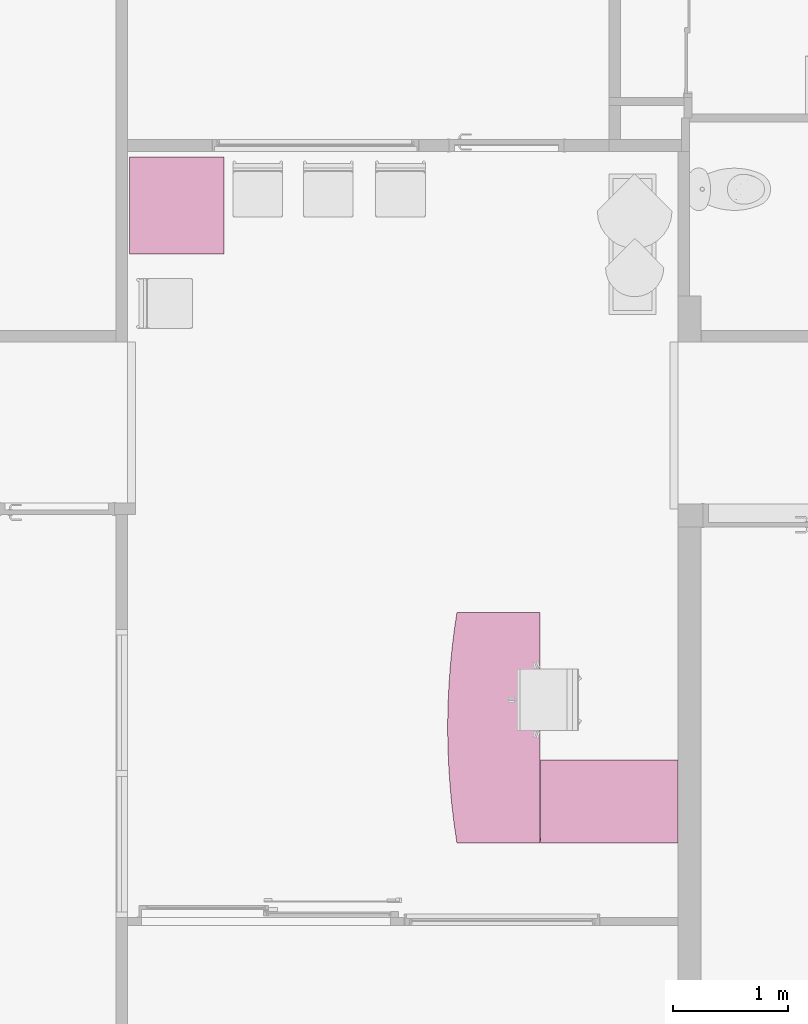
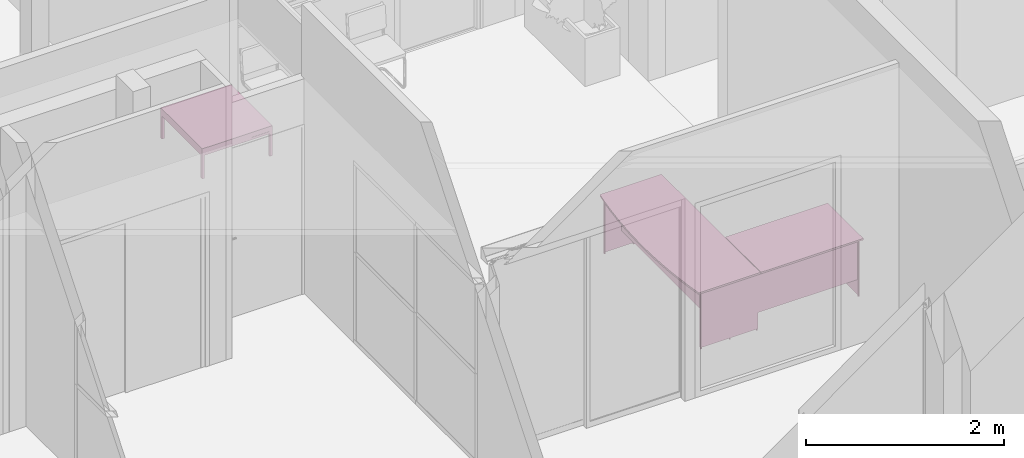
# One storey, part 29 of 32: 2 furnishings.
"""IFC2X3 building model written with IfcOpenShell, lengths in metres."""

from ifc_helpers import new_model, entity, si_unit, converted_unit, derived_unit, direction, frame, frame_2d, origin, origin_2d_with_axis, place, context, subcontext, project, spatial, polyline, circle_curve, parameter, trimmed, segment, composite_curve, rectangle, circle, outline, extrude, source, transform, mapped, material, material_list, type_object, type_shapes, element, save


model = new_model("IFC2X3")

# Units and contexts
model_context = context("Model", 3, precision=1e-05, world=origin(), true_north=direction((6.12303176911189e-17, 1.0)))
plan_context = context("Plan", 3, precision=1e-05, world=origin(), true_north=direction((6.12303176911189e-17, 1.0)))
body_context = subcontext(model_context, "Body", "Model", "MODEL_VIEW")
ifc_project = project(units=[si_unit("LENGTHUNIT", "METRE"), si_unit("AREAUNIT", "SQUARE_METRE"), si_unit("VOLUMEUNIT", "CUBIC_METRE"), converted_unit("PLANEANGLEUNIT", "DEGREE", entity("IfcRatioMeasure", 0.0174532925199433), si_unit("PLANEANGLEUNIT", "RADIAN"), dimensions=[0, 0, 0, 0, 0, 0, 0]), si_unit("MASSUNIT", "GRAM", prefix="KILO"), derived_unit("MASSDENSITYUNIT", [(si_unit("MASSUNIT", "GRAM", prefix="KILO"), 1), (si_unit("LENGTHUNIT", "METRE"), -3)]), derived_unit("MOMENTOFINERTIAUNIT", [(si_unit("LENGTHUNIT", "METRE"), 4)]), si_unit("TIMEUNIT", "SECOND"), si_unit("FREQUENCYUNIT", "HERTZ"), si_unit("THERMODYNAMICTEMPERATUREUNIT", "DEGREE_CELSIUS"), derived_unit("THERMALTRANSMITTANCEUNIT", [(si_unit("MASSUNIT", "GRAM", prefix="KILO"), 1), (si_unit("THERMODYNAMICTEMPERATUREUNIT", "KELVIN"), -1), (si_unit("TIMEUNIT", "SECOND"), -3)]), derived_unit("VOLUMETRICFLOWRATEUNIT", [(si_unit("LENGTHUNIT", "METRE"), 3), (si_unit("TIMEUNIT", "SECOND"), -1)]), si_unit("ELECTRICCURRENTUNIT", "AMPERE"), si_unit("ELECTRICVOLTAGEUNIT", "VOLT"), si_unit("POWERUNIT", "WATT"), si_unit("FORCEUNIT", "NEWTON", prefix="KILO"), si_unit("ILLUMINANCEUNIT", "LUX"), si_unit("LUMINOUSFLUXUNIT", "LUMEN"), si_unit("LUMINOUSINTENSITYUNIT", "CANDELA"), derived_unit("USERDEFINED", [(si_unit("MASSUNIT", "GRAM", prefix="KILO"), -1), (si_unit("LENGTHUNIT", "METRE"), -2), (si_unit("TIMEUNIT", "SECOND"), 3), (si_unit("LUMINOUSFLUXUNIT", "LUMEN"), 1)]), derived_unit("LINEARVELOCITYUNIT", [(si_unit("LENGTHUNIT", "METRE"), 1), (si_unit("TIMEUNIT", "SECOND"), -1)]), si_unit("PRESSUREUNIT", "PASCAL"), derived_unit("USERDEFINED", [(si_unit("LENGTHUNIT", "METRE"), -2), (si_unit("MASSUNIT", "GRAM", prefix="KILO"), 1), (si_unit("TIMEUNIT", "SECOND"), -2)]), derived_unit("LINEARFORCEUNIT", [(si_unit("MASSUNIT", "GRAM", prefix="KILO"), 1), (si_unit("LENGTHUNIT", "METRE"), 1), (si_unit("TIMEUNIT", "SECOND"), -2), (si_unit("LENGTHUNIT", "METRE"), -1)]), derived_unit("PLANARFORCEUNIT", [(si_unit("MASSUNIT", "GRAM", prefix="KILO"), 1), (si_unit("LENGTHUNIT", "METRE"), 1), (si_unit("TIMEUNIT", "SECOND"), -2), (si_unit("LENGTHUNIT", "METRE"), -2)])], contexts=[model_context, plan_context])

# Site, building, storey, space
site_placement = place(None, origin())
site = spatial("IfcSite", under=ifc_project, at=site_placement, Name="Default", CompositionType="ELEMENT")
building_placement = place(site_placement, origin())
building = spatial("IfcBuilding", under=site, at=building_placement, CompositionType="ELEMENT")
storey_placement = place(building_placement, origin())
storey = spatial("IfcBuildingStorey", under=building, at=storey_placement, Name="0 Mairie RDC 0.00", CompositionType="ELEMENT", Elevation=-1.94916083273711e-14)
space_placement = place(storey_placement, origin())
space = spatial("IfcSpace", under=storey, at=space_placement, Name="16", CompositionType="ELEMENT", InteriorOrExteriorSpace="INTERNAL")

# Furnishings
ifc_material_1 = material(Name="Métal - Chrome")
ifc_material_2 = material(Name="Plastique - Noir")
ifc_material_3 = material(Name="Aggloméré - Blanc brillant")
ifc_material_list_1 = material_list([ifc_material_1, ifc_material_1, ifc_material_1, ifc_material_1, ifc_material_1, ifc_material_1, ifc_material_1, ifc_material_1, ifc_material_2, ifc_material_2, ifc_material_2, ifc_material_2, ifc_material_3])
ifc_material_list_2 = material_list([ifc_material_1, ifc_material_1, ifc_material_1, ifc_material_1, ifc_material_1, ifc_material_1, ifc_material_1, ifc_material_1, ifc_material_2, ifc_material_2, ifc_material_2, ifc_material_2, ifc_material_3])
furniture_type_1 = type_object("IfcFurnitureType", Name="Mobilier : Table basse - 01 : 82 x 84 x 37 cm - Blanc brillant", material=ifc_material_list_2)
shared_shape_1 = source(origin(), body_context, "Body", "SweptSolid", [
    extrude(outline(composite_curve([segment(polyline([(-0.0140000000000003, -0.015000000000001), (0.0140000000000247, -0.0150000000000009)]), True, "CONTINUOUS"), segment(trimmed(circle_curve(frame_2d((0.0140000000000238, -0.014000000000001), x_axis=(-1.0, 0.0)), 0.001), [parameter(89.9999999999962)], [parameter(180.0)], True, "PARAMETER"), True, "CONTINUOUS"), segment(polyline([(0.0149999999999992, -0.0140000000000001), (0.0149999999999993, 0.014000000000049)]), True, "CONTINUOUS"), segment(trimmed(circle_curve(frame_2d((0.0139999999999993, 0.0140000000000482), x_axis=(-1.0, 0.0)), 0.001), [parameter(180.0)], [parameter(270.000000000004)], True, "PARAMETER"), True, "CONTINUOUS"), segment(polyline([(0.0139999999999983, 0.0150000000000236), (-0.0139999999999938, 0.0149999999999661)]), True, "CONTINUOUS"), segment(trimmed(circle_curve(frame_2d((-0.0139999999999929, 0.0139999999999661), x_axis=(-1.0, 0.0)), 0.001), [parameter(270.0)], [parameter(0.0)], True, "PARAMETER"), True, "CONTINUOUS"), segment(polyline([(-0.0150000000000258, 0.0139999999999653), (-0.0150000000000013, -0.0140000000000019)]), True, "CONTINUOUS"), segment(trimmed(circle_curve(frame_2d((-0.0140000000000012, -0.014000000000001), x_axis=(-1.0, 0.0)), 0.001), [parameter(0.0)], [parameter(90.0000000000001)], True, "PARAMETER"), True, "CONTINUOUS")], self_intersect=False)), frame((-0.379999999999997, 0.404999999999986, 0.295000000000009), z_axis=(1.0, 0.0, 0.0), x_axis=(0.0, -1.0, 0.0)), (0.0, 0.0, 1.0), 0.76),
    extrude(outline(composite_curve([segment(polyline([(-0.0139999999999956, -0.0150000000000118), (0.0140000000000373, -0.0150000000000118)]), True, "CONTINUOUS"), segment(trimmed(circle_curve(frame_2d((0.0140000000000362, -0.0140000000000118), x_axis=(-1.0, 0.0)), 0.001), [parameter(90.0000000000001)], [parameter(180.0)], True, "PARAMETER"), True, "CONTINUOUS"), segment(polyline([(0.0150000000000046, -0.0140000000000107), (0.0150000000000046, 0.0140000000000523)]), True, "CONTINUOUS"), segment(trimmed(circle_curve(frame_2d((0.0140000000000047, 0.0140000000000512), x_axis=(-1.0, 0.0)), 0.001), [parameter(180.0)], [parameter(270.0)], True, "PARAMETER"), True, "CONTINUOUS"), segment(polyline([(0.0140000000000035, 0.0150000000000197), (-0.0140000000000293, 0.0149999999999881)]), True, "CONTINUOUS"), segment(trimmed(circle_curve(frame_2d((-0.0140000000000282, 0.0139999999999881), x_axis=(-1.0, 0.0)), 0.001), [parameter(270.0)], [parameter(0.0)], True, "PARAMETER"), True, "CONTINUOUS"), segment(polyline([(-0.0150000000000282, 0.013999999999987), (-0.0149999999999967, -0.014000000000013)]), True, "CONTINUOUS"), segment(trimmed(circle_curve(frame_2d((-0.0139999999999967, -0.0140000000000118), x_axis=(-1.0, 0.0)), 0.001), [parameter(0.0)], [parameter(90.0000000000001)], True, "PARAMETER"), True, "CONTINUOUS")], self_intersect=False)), frame((-0.379999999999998, -0.405000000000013, 0.295000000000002), z_axis=(1.0, 0.0, 0.0), x_axis=(0.0, -1.0, 0.0)), (0.0, 0.0, 1.0), 0.76),
    extrude(outline(composite_curve([segment(polyline([(-0.0139999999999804, -0.0150000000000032), (0.0140000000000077, -0.0150000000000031)]), True, "CONTINUOUS"), segment(trimmed(circle_curve(frame_2d((0.0140000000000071, -0.0140000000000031), x_axis=(-1.0, 0.0)), 0.001), [parameter(90.0000000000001)], [parameter(180.0)], True, "PARAMETER"), True, "CONTINUOUS"), segment(polyline([(0.0149999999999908, -0.0140000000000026), (0.0149999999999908, 0.0140000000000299)]), True, "CONTINUOUS"), segment(trimmed(circle_curve(frame_2d((0.0139999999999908, 0.0140000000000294), x_axis=(-1.0, 0.0)), 0.001), [parameter(180.0)], [parameter(270.0)], True, "PARAMETER"), True, "CONTINUOUS"), segment(polyline([(0.0139999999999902, 0.0150000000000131), (-0.0139999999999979, 0.0149999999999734)]), True, "CONTINUOUS"), segment(trimmed(circle_curve(frame_2d((-0.0139999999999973, 0.0139999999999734), x_axis=(-1.0, 0.0)), 0.001), [parameter(270.0)], [parameter(0.0)], True, "PARAMETER"), True, "CONTINUOUS"), segment(polyline([(-0.0150000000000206, 0.0139999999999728), (-0.014999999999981, -0.0139999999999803)]), True, "CONTINUOUS"), segment(trimmed(circle_curve(frame_2d((-0.013999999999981, -0.0139999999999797), x_axis=(-1.0, 0.0)), 0.001), [parameter(0.0)], [parameter(90.0000000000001)], True, "PARAMETER"), True, "CONTINUOUS")], self_intersect=False)), frame((0.394999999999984, -0.390000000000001, 0.294999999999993), z_axis=(0.0, 1.0, 0.0), x_axis=(-1.0, 0.0, 0.0)), (0.0, 0.0, 1.0), 0.779999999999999),
    extrude(outline(composite_curve([segment(polyline([(-0.0139999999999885, -0.0150000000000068), (0.0140000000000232, -0.0150000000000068)]), True, "CONTINUOUS"), segment(trimmed(circle_curve(frame_2d((0.0140000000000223, -0.0140000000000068), x_axis=(-1.0, 0.0)), 0.001), [parameter(90.0000000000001)], [parameter(180.0)], True, "PARAMETER"), True, "CONTINUOUS"), segment(polyline([(0.014999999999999, -0.014000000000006), (0.0149999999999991, 0.0140000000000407)]), True, "CONTINUOUS"), segment(trimmed(circle_curve(frame_2d((0.0139999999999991, 0.0140000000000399), x_axis=(-1.0, 0.0)), 0.001), [parameter(180.0)], [parameter(270.0)], True, "PARAMETER"), True, "CONTINUOUS"), segment(polyline([(0.0139999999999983, 0.0150000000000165), (-0.0140000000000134, 0.0149999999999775)]), True, "CONTINUOUS"), segment(trimmed(circle_curve(frame_2d((-0.0140000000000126, 0.0139999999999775), x_axis=(-1.0, 0.0)), 0.001), [parameter(270.0)], [parameter(0.0)], True, "PARAMETER"), True, "CONTINUOUS"), segment(polyline([(-0.0150000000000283, 0.0139999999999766), (-0.0149999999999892, -0.0139999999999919)]), True, "CONTINUOUS"), segment(trimmed(circle_curve(frame_2d((-0.0139999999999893, -0.0139999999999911), x_axis=(-1.0, 0.0)), 0.001), [parameter(0.0)], [parameter(90.0000000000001)], True, "PARAMETER"), True, "CONTINUOUS")], self_intersect=False)), frame((-0.395000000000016, -0.389999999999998, 0.294999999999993), z_axis=(0.0, 1.0, 0.0), x_axis=(-1.0, 0.0, 0.0)), (0.0, 0.0, 1.0), 0.779999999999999),
    extrude(outline(composite_curve([segment(polyline([(-0.0139999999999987, -0.0150000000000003), (0.0140000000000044, -0.0150000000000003)]), True, "CONTINUOUS"), segment(trimmed(circle_curve(frame_2d((0.0140000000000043, -0.0140000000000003), x_axis=(-1.0, 0.0)), 0.001), [parameter(90.0000000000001)], [parameter(180.0)], True, "PARAMETER"), True, "CONTINUOUS"), segment(polyline([(0.0150000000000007, -0.0140000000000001), (0.0149999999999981, 0.0140000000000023)]), True, "CONTINUOUS"), segment(trimmed(circle_curve(frame_2d((0.013999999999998, 0.0140000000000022), x_axis=(-1.0, 0.0)), 0.001), [parameter(180.0)], [parameter(270.0)], True, "PARAMETER"), True, "CONTINUOUS"), segment(polyline([(0.0139999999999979, 0.0150000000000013), (-0.0140000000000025, 0.0149999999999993)]), True, "CONTINUOUS"), segment(trimmed(circle_curve(frame_2d((-0.0140000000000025, 0.0139999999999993), x_axis=(-1.0, 0.0)), 0.001), [parameter(269.999999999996)], [parameter(0.0)], True, "PARAMETER"), True, "CONTINUOUS"), segment(polyline([(-0.0150000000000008, 0.0139999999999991), (-0.0149999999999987, -0.0140000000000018)]), True, "CONTINUOUS"), segment(trimmed(circle_curve(frame_2d((-0.0139999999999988, -0.0140000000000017), x_axis=(-1.0, 0.0)), 0.001), [parameter(0.0)], [parameter(89.9999999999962)], True, "PARAMETER"), True, "CONTINUOUS")], self_intersect=False)), frame((0.395000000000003, 0.404999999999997, 0.01), z_axis=(0.0, 0.0, 1.0), x_axis=(-1.0, 0.0, 0.0)), (0.0, 0.0, 1.0), 0.3),
    extrude(outline(composite_curve([segment(polyline([(-0.013999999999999, -0.0149999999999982), (0.0139999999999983, -0.0149999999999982)]), True, "CONTINUOUS"), segment(trimmed(circle_curve(frame_2d((0.0139999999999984, -0.0139999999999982), x_axis=(-1.0, 0.0)), 0.001), [parameter(90.0000000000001)], [parameter(180.0)], True, "PARAMETER"), True, "CONTINUOUS"), segment(polyline([(0.0149999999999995, -0.0139999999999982), (0.0149999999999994, 0.0139999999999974)]), True, "CONTINUOUS"), segment(trimmed(circle_curve(frame_2d((0.0139999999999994, 0.0139999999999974), x_axis=(-1.0, 0.0)), 0.001), [parameter(180.0)], [parameter(270.0)], True, "PARAMETER"), True, "CONTINUOUS"), segment(polyline([(0.0139999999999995, 0.0149999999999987), (-0.0139999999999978, 0.0149999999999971)]), True, "CONTINUOUS"), segment(trimmed(circle_curve(frame_2d((-0.0139999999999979, 0.0139999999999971), x_axis=(-1.0, 0.0)), 0.001), [parameter(270.0)], [parameter(0.0)], True, "PARAMETER"), True, "CONTINUOUS"), segment(polyline([(-0.0150000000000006, 0.0139999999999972), (-0.0149999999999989, -0.0139999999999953)]), True, "CONTINUOUS"), segment(trimmed(circle_curve(frame_2d((-0.0139999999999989, -0.0139999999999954), x_axis=(-1.0, 0.0)), 0.001), [parameter(0.0)], [parameter(90.0000000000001)], True, "PARAMETER"), True, "CONTINUOUS")], self_intersect=False)), frame((-0.394999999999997, 0.404999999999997, 0.01), z_axis=(0.0, 0.0, 1.0), x_axis=(-1.0, 0.0, 0.0)), (0.0, 0.0, 1.0), 0.3),
    extrude(outline(composite_curve([segment(polyline([(-0.0140000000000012, -0.0150000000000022), (0.0140000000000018, -0.0150000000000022)]), True, "CONTINUOUS"), segment(trimmed(circle_curve(frame_2d((0.0140000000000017, -0.0140000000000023), x_axis=(-1.0, 0.0)), 0.001), [parameter(90.0000000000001)], [parameter(180.0)], True, "PARAMETER"), True, "CONTINUOUS"), segment(polyline([(0.0150000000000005, -0.0140000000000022), (0.0150000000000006, 0.0140000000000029)]), True, "CONTINUOUS"), segment(trimmed(circle_curve(frame_2d((0.0140000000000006, 0.0140000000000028), x_axis=(-1.0, 0.0)), 0.001), [parameter(180.0)], [parameter(269.999999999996)], True, "PARAMETER"), True, "CONTINUOUS"), segment(polyline([(0.0140000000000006, 0.0150000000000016), (-0.0140000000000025, 0.015000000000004)]), True, "CONTINUOUS"), segment(trimmed(circle_curve(frame_2d((-0.0140000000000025, 0.014000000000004), x_axis=(-1.0, 0.0)), 0.001), [parameter(269.999999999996)], [parameter(359.999999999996)], True, "PARAMETER"), True, "CONTINUOUS"), segment(polyline([(-0.0149999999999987, 0.014000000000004), (-0.0150000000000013, -0.014000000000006)]), True, "CONTINUOUS"), segment(trimmed(circle_curve(frame_2d((-0.0140000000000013, -0.014000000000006), x_axis=(-1.0, 0.0)), 0.001), [parameter(0.0)], [parameter(90.000000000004)], True, "PARAMETER"), True, "CONTINUOUS")], self_intersect=False)), frame((0.395000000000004, -0.405000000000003, 0.01), z_axis=(0.0, 0.0, 1.0), x_axis=(-1.0, 0.0, 0.0)), (0.0, 0.0, 1.0), 0.3),
    extrude(outline(composite_curve([segment(polyline([(-0.0139999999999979, -0.0150000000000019), (0.0139999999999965, -0.0150000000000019)]), True, "CONTINUOUS"), segment(trimmed(circle_curve(frame_2d((0.0139999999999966, -0.0140000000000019), x_axis=(-1.0, 0.0)), 0.001), [parameter(90.0000000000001)], [parameter(180.0)], True, "PARAMETER"), True, "CONTINUOUS"), segment(polyline([(0.015, -0.014000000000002), (0.015, 0.0139999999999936)]), True, "CONTINUOUS"), segment(trimmed(circle_curve(frame_2d((0.014, 0.0139999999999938), x_axis=(-1.0, 0.0)), 0.001), [parameter(180.0)], [parameter(270.0)], True, "PARAMETER"), True, "CONTINUOUS"), segment(polyline([(0.0140000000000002, 0.0149999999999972), (-0.0140000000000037, 0.0150000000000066)]), True, "CONTINUOUS"), segment(trimmed(circle_curve(frame_2d((-0.0140000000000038, 0.0140000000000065), x_axis=(-1.0, 0.0)), 0.001), [parameter(270.0)], [parameter(0.0)], True, "PARAMETER"), True, "CONTINUOUS"), segment(polyline([(-0.0149999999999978, 0.0140000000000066), (-0.0149999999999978, -0.0139999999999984)]), True, "CONTINUOUS"), segment(trimmed(circle_curve(frame_2d((-0.0139999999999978, -0.0139999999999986), x_axis=(-1.0, 0.0)), 0.001), [parameter(359.999999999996)], [parameter(90.0000000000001)], True, "PARAMETER"), True, "CONTINUOUS")], self_intersect=False)), frame((-0.394999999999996, -0.405000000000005, 0.01), z_axis=(0.0, 0.0, 1.0), x_axis=(-1.0, 0.0, 0.0)), (0.0, 0.0, 1.0), 0.3),
    extrude(outline(composite_curve([segment(trimmed(circle_curve(frame_2d((0.0139999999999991, -0.0140000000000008), x_axis=(1.0, 0.0)), 0.001), [parameter(270.0)], [parameter(0.0)], True, "PARAMETER"), True, "CONTINUOUS"), segment(polyline([(0.0149999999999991, -0.0140000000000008), (0.0149999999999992, 0.0140000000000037)]), True, "CONTINUOUS"), segment(trimmed(circle_curve(frame_2d((0.0140000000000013, 0.0140000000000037), x_axis=(1.0, 0.0)), 0.001), [parameter(0.0)], [parameter(90.0000000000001)], True, "PARAMETER"), True, "CONTINUOUS"), segment(polyline([(0.0140000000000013, 0.0150000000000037), (-0.0139999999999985, 0.0150000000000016)]), True, "CONTINUOUS"), segment(trimmed(circle_curve(frame_2d((-0.0139999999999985, 0.013999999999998), x_axis=(1.0, 0.0)), 0.001), [parameter(90.0000000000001)], [parameter(180.0)], True, "PARAMETER"), True, "CONTINUOUS"), segment(polyline([(-0.0149999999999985, 0.013999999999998), (-0.0150000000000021, -0.0140000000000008)]), True, "CONTINUOUS"), segment(trimmed(circle_curve(frame_2d((-0.014000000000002, -0.0140000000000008), x_axis=(1.0, 0.0)), 0.001), [parameter(180.0)], [parameter(270.0)], True, "PARAMETER"), True, "CONTINUOUS"), segment(polyline([(-0.014000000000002, -0.0150000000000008), (0.0139999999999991, -0.0150000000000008)]), True, "CONTINUOUS")], self_intersect=False)), frame((-0.394999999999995, -0.405000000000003, 0.0)), (0.0, 0.0, 1.0), 0.01),
    extrude(outline(composite_curve([segment(trimmed(circle_curve(frame_2d((0.0139999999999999, -0.014), x_axis=(1.0, 0.0)), 0.001), [parameter(270.000000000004)], [parameter(359.999999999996)], True, "PARAMETER"), True, "CONTINUOUS"), segment(polyline([(0.0149999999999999, -0.0140000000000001), (0.0149999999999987, 0.0139999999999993)]), True, "CONTINUOUS"), segment(trimmed(circle_curve(frame_2d((0.0139999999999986, 0.0139999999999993), x_axis=(1.0, 0.0)), 0.001), [parameter(0.0)], [parameter(89.9999999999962)], True, "PARAMETER"), True, "CONTINUOUS"), segment(polyline([(0.0139999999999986, 0.0149999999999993), (-0.0139999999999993, 0.0149999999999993)]), True, "CONTINUOUS"), segment(trimmed(circle_curve(frame_2d((-0.0139999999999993, 0.0139999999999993), x_axis=(1.0, 0.0)), 0.001), [parameter(90.0000000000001)], [parameter(180.0)], True, "PARAMETER"), True, "CONTINUOUS"), segment(polyline([(-0.0149999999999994, 0.0139999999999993), (-0.0149999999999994, -0.0139999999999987)]), True, "CONTINUOUS"), segment(trimmed(circle_curve(frame_2d((-0.0139999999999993, -0.0139999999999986), x_axis=(1.0, 0.0)), 0.001), [parameter(180.000000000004)], [parameter(270.0)], True, "PARAMETER"), True, "CONTINUOUS"), segment(polyline([(-0.0139999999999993, -0.0149999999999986), (0.014, -0.0149999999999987)]), True, "CONTINUOUS")], self_intersect=False)), frame((0.395000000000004, 0.404999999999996, 0.0)), (0.0, 0.0, 1.0), 0.01),
    extrude(outline(composite_curve([segment(trimmed(circle_curve(frame_2d((0.014, -0.013999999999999), x_axis=(1.0, 0.0)), 0.001), [parameter(270.0)], [parameter(0.0)], True, "PARAMETER"), True, "CONTINUOUS"), segment(polyline([(0.015, -0.013999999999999), (0.015, 0.013999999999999)]), True, "CONTINUOUS"), segment(trimmed(circle_curve(frame_2d((0.0139999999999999, 0.0139999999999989), x_axis=(1.0, 0.0)), 0.001), [parameter(3.86755449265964e-12)], [parameter(90.0000000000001)], True, "PARAMETER"), True, "CONTINUOUS"), segment(polyline([(0.0139999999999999, 0.0149999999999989), (-0.0139999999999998, 0.014999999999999)]), True, "CONTINUOUS"), segment(trimmed(circle_curve(frame_2d((-0.0139999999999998, 0.0139999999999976), x_axis=(1.0, 0.0)), 0.001), [parameter(90.0000000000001)], [parameter(180.0)], True, "PARAMETER"), True, "CONTINUOUS"), segment(polyline([(-0.0149999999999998, 0.0139999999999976), (-0.0150000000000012, -0.0139999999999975)]), True, "CONTINUOUS"), segment(trimmed(circle_curve(frame_2d((-0.0139999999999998, -0.0139999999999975), x_axis=(1.0, 0.0)), 0.001), [parameter(180.0)], [parameter(270.0)], True, "PARAMETER"), True, "CONTINUOUS"), segment(polyline([(-0.0139999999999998, -0.0149999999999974), (0.014, -0.014999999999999)]), True, "CONTINUOUS")], self_intersect=False)), frame((-0.394999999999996, 0.404999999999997, 0.0)), (0.0, 0.0, 1.0), 0.01),
    extrude(outline(composite_curve([segment(polyline([(-0.0140000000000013, -0.0150000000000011), (0.0139999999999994, -0.0150000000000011)]), True, "CONTINUOUS"), segment(trimmed(circle_curve(frame_2d((0.0139999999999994, -0.0140000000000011), x_axis=(-1.0, 0.0)), 0.001), [parameter(90.0000000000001)], [parameter(180.0)], True, "PARAMETER"), True, "CONTINUOUS"), segment(polyline([(0.0150000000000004, -0.0140000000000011), (0.0149999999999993, 0.0139999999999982)]), True, "CONTINUOUS"), segment(trimmed(circle_curve(frame_2d((0.0139999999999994, 0.0139999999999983), x_axis=(-1.0, 0.0)), 0.001), [parameter(180.0)], [parameter(270.0)], True, "PARAMETER"), True, "CONTINUOUS"), segment(polyline([(0.0139999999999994, 0.0150000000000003), (-0.0139999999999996, 0.0150000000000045)]), True, "CONTINUOUS"), segment(trimmed(circle_curve(frame_2d((-0.0139999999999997, 0.0140000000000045), x_axis=(-1.0, 0.0)), 0.001), [parameter(270.0)], [parameter(0.0)], True, "PARAMETER"), True, "CONTINUOUS"), segment(polyline([(-0.0149999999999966, 0.0140000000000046), (-0.0150000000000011, -0.0140000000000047)]), True, "CONTINUOUS"), segment(trimmed(circle_curve(frame_2d((-0.0140000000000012, -0.0140000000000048), x_axis=(-1.0, 0.0)), 0.001), [parameter(0.0)], [parameter(90.0000000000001)], True, "PARAMETER"), True, "CONTINUOUS")], self_intersect=False)), frame((0.395000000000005, -0.405000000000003, 0.0), z_axis=(0.0, 0.0, 1.0), x_axis=(-1.0, 0.0, 0.0)), (0.0, 0.0, 1.0), 0.01),
    extrude(rectangle(XDim=0.82, YDim=0.84, at=origin_2d_with_axis()), frame((0.0, 0.0, 0.31), z_axis=(0.0, 0.0, 1.0), x_axis=(-1.0, 0.0, 0.0)), (0.0, 0.0, 1.0), 0.06),
])
type_shapes(furniture_type_1, [shared_shape_1])
furnishing_1_placement = place(space_placement, frame((-9.2774967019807, -5.44921541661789, 0.0)))
element("IfcFurnishingElement", 1, at=furnishing_1_placement, inside=space, type_object=furniture_type_1, material=ifc_material_list_1, Name="Mobilier : Table basse - 01 : 82 x 84 x 37 cm - Blanc brillant", ObjectType="Table basse - 01:82 x 84 x 37 cm - Blanc brillant", context=body_context, shape_type="MappedRepresentation", body=[
    mapped(shared_shape_1, transform((0.0, 0.0, 0.0), scale=1.0)),
])
ifc_material_4 = material(Name="Bois - Bouleau")
ifc_material_list_3 = material_list([ifc_material_4, ifc_material_4, ifc_material_2, ifc_material_2, ifc_material_2, ifc_material_2, ifc_material_2, ifc_material_2, ifc_material_2, ifc_material_2, ifc_material_2, ifc_material_4, ifc_material_4, ifc_material_4, ifc_material_4, ifc_material_4])
ifc_material_list_4 = material_list([ifc_material_4, ifc_material_4, ifc_material_2, ifc_material_2, ifc_material_2, ifc_material_2, ifc_material_2, ifc_material_2, ifc_material_2, ifc_material_2, ifc_material_2, ifc_material_4, ifc_material_4, ifc_material_4, ifc_material_4, ifc_material_4])
furniture_type_2 = type_object("IfcFurnitureType", Name="Mobilier : Bureau - En L : 2000mm x 2000mm", material=ifc_material_list_4)
shared_shape_2 = source(origin(), body_context, "Body", "SweptSolid", [
    extrude(rectangle(XDim=1.195, YDim=0.719999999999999, at=frame_2d((0.0, -1.38777878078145e-16), x_axis=(1.0, 0.0))), frame((0.359999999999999, 0.602500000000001, 0.7), z_axis=(0.0, 0.0, 1.0), x_axis=(0.0, -1.0, 0.0)), (0.0, 0.0, 1.0), 0.0200000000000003),
    extrude(outline(composite_curve([segment(trimmed(circle_curve(frame_2d((0.0, 5.85), x_axis=(1.0, 0.0)), 6.29), [parameter(260.852157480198)], [parameter(279.147842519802)], True, "PARAMETER"), True, "CONTINUOUS"), segment(polyline([(1.0, -0.360000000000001), (1.0, 0.359999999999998)]), True, "CONTINUOUS"), segment(polyline([(1.0, 0.359999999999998), (-1.0, 0.359999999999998)]), True, "CONTINUOUS"), segment(polyline([(-1.0, 0.359999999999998), (-1.0, -0.360000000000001)]), True, "CONTINUOUS")], self_intersect=False)), frame((-0.280000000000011, -0.359999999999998, 0.7)), (0.0, 0.0, 1.0), 0.0200000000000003),
    extrude(circle(Radius=0.00999999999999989, at=origin_2d_with_axis()), frame((0.690000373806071, -0.679343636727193, 0.0), z_axis=(0.0, 0.0, 1.0), x_axis=(-1.0, 0.0, 0.0)), (0.0, 0.0, 1.0), 0.0199999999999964),
    extrude(circle(Radius=0.00999999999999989, at=origin_2d_with_axis()), frame((0.686110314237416, 1.16382153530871, 0.0), z_axis=(0.0, 0.0, 1.0), x_axis=(0.0, -1.0, 0.0)), (0.0, 0.0, 1.0), 0.0199999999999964),
    extrude(circle(Radius=0.00999999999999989, at=frame_2d((0.0, -1.69197988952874e-17), x_axis=(1.0, 0.0))), frame((-1.25000037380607, -0.0265806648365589, 0.0)), (0.0, 0.0, 1.0), 0.0199999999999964),
    extrude(circle(Radius=0.00999999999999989, at=origin_2d_with_axis()), frame((-1.25000037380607, -0.679343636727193, 0.0)), (0.0, 0.0, 1.0), 0.0199999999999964),
    extrude(circle(Radius=0.00999999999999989, at=origin_2d_with_axis()), frame((-1.25000037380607, -0.341580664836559, 0.0)), (0.0, 0.0, 1.0), 0.0199999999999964),
    extrude(circle(Radius=0.00999999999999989, at=frame_2d((0.0, -1.69197988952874e-17), x_axis=(1.0, 0.0))), frame((0.69000037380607, -0.0265806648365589, 0.0), z_axis=(0.0, 0.0, 1.0), x_axis=(-1.0, 0.0, 0.0)), (0.0, 0.0, 1.0), 0.0199999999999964),
    extrude(circle(Radius=0.00999999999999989, at=origin_2d_with_axis()), frame((0.69000037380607, -0.341580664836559, 0.0), z_axis=(0.0, 0.0, 1.0), x_axis=(-1.0, 0.0, 0.0)), (0.0, 0.0, 1.0), 0.0199999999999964),
    extrude(circle(Radius=0.00999999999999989, at=frame_2d((-1.20222401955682e-31, 6.76791955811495e-17), x_axis=(1.0, 0.0))), frame((0.0333473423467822, 1.16382153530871, 0.0), z_axis=(0.0, 0.0, 1.0), x_axis=(0.0, -1.0, 0.0)), (0.0, 0.0, 1.0), 0.0199999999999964),
    extrude(circle(Radius=0.00999999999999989, at=origin_2d_with_axis()), frame((0.348347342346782, 1.16382153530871, 0.0), z_axis=(0.0, 0.0, 1.0), x_axis=(0.0, -1.0, 0.0)), (0.0, 0.0, 1.0), 0.0199999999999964),
    extrude(rectangle(XDim=1.92, YDim=0.02, at=frame_2d((0.0, 3.38271077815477e-17), x_axis=(1.0, 0.0))), frame((-0.279999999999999, -0.48, 0.219999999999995), z_axis=(0.0, 0.0, 1.0), x_axis=(-1.0, 0.0, 0.0)), (0.0, 0.0, 1.0), 0.480000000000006),
    extrude(rectangle(XDim=1.16, YDim=0.0200000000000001, at=frame_2d((5.55111512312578e-17, 0.0), x_axis=(1.0, 0.0))), frame((0.690000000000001, 0.565, 0.219999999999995), z_axis=(0.0, 0.0, 1.0), x_axis=(0.0, 1.0, 0.0)), (0.0, 0.0, 1.0), 0.480000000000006),
    extrude(outline(composite_curve([segment(polyline([(-0.3325, -0.0099999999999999), (0.3325, -0.0099999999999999)]), True, "CONTINUOUS"), segment(trimmed(circle_curve(frame_2d((0.3325, 0.0), x_axis=(0.0, -1.0)), 0.0100000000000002), [parameter(0.0)], [parameter(180.0)], True, "PARAMETER"), True, "CONTINUOUS"), segment(polyline([(0.3325, 0.0100000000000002), (-0.3325, 0.0100000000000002)]), True, "CONTINUOUS"), segment(polyline([(-0.3325, 0.0100000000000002), (-0.3325, -0.0099999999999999)]), True, "CONTINUOUS")], self_intersect=False)), frame((0.689999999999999, -0.3475, 0.0199999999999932), z_axis=(0.0, 0.0, 1.0), x_axis=(0.0, -1.0, 0.0)), (0.0, 0.0, 1.0), 0.68),
    extrude(outline(composite_curve([segment(polyline([(-0.00999999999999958, -0.3325), (0.0100000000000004, -0.3325)]), True, "CONTINUOUS"), segment(polyline([(0.0100000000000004, -0.3325), (0.01, 0.3325)]), True, "CONTINUOUS"), segment(trimmed(circle_curve(frame_2d((0.0, 0.3325), x_axis=(-1.0, 0.0)), 0.0100000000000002), [parameter(180.0)], [parameter(0.0)], True, "PARAMETER"), True, "CONTINUOUS"), segment(polyline([(-0.01, 0.3325), (-0.00999999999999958, -0.3325)]), True, "CONTINUOUS")], self_intersect=False)), frame((-1.25, -0.3475, 0.0199999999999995), z_axis=(0.0, 0.0, 1.0), x_axis=(-1.0, 0.0, 0.0)), (0.0, 0.0, 1.0), 0.680000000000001),
    extrude(outline(composite_curve([segment(polyline([(-0.0100000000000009, -0.3325), (0.0099999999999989, -0.3325)]), True, "CONTINUOUS"), segment(polyline([(0.0099999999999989, -0.3325), (0.0100000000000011, 0.3325)]), True, "CONTINUOUS"), segment(trimmed(circle_curve(frame_2d((0.0, 0.3325), x_axis=(-1.0, 0.0)), 0.0100000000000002), [parameter(180.000000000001)], [parameter(359.999999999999)], True, "PARAMETER"), True, "CONTINUOUS"), segment(polyline([(-0.00999999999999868, 0.3325), (-0.0100000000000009, -0.3325)]), True, "CONTINUOUS")], self_intersect=False)), frame((0.353610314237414, 1.16382153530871, 0.0199999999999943), z_axis=(0.0, 0.0, 1.0), x_axis=(0.0, -1.0, 0.0)), (0.0, 0.0, 1.0), 0.68),
])
type_shapes(furniture_type_2, [shared_shape_2])
furnishing_2_placement = place(space_placement, frame((-6.1274967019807, -10.2605833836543, -0.02), z_axis=(0.0, 0.0, 1.0), x_axis=(0.0, -1.0, 0.0)))
element("IfcFurnishingElement", 2, at=furnishing_2_placement, inside=space, type_object=furniture_type_2, material=ifc_material_list_3, Name="Mobilier : Bureau - En L : 2000mm x 2000mm", ObjectType="Bureau - En L:2000mm x 2000mm", context=body_context, shape_type="MappedRepresentation", body=[
    mapped(shared_shape_2, transform((0.0, 0.0, 0.0), scale=1.0)),
])

save(model, "model.ifc")
